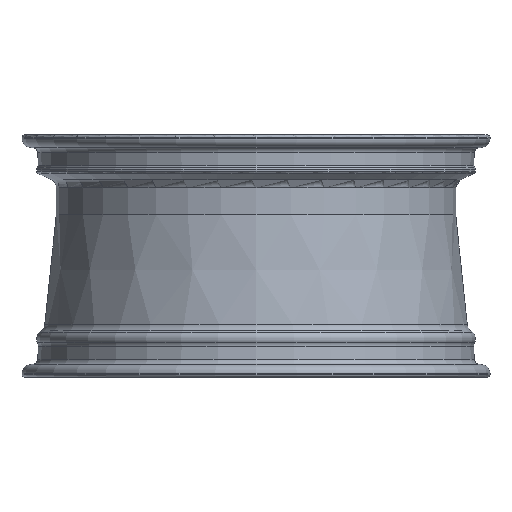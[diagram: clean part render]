
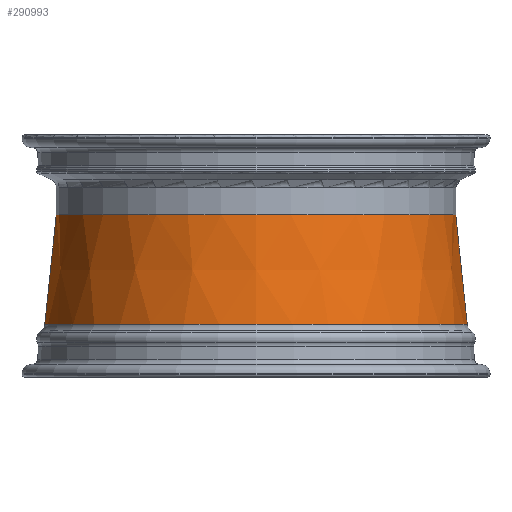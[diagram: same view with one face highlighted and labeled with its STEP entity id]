
A CAD part, front view. The second image highlights one B-rep face of the part: STEP entity #290993.
In plain terms, the highlighted conical face has half-angle 6 degrees and reference radius 229.187 mm.
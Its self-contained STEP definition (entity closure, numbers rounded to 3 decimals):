
#7204 = VECTOR ( 'NONE', #234315, 1000. ) ;
#13282 = CARTESIAN_POINT ( 'NONE',  ( 222.767, 0., 45.9 ) ) ;
#24346 = ORIENTED_EDGE ( 'NONE', *, *, #309375, .F. ) ;
#25072 = FACE_OUTER_BOUND ( 'NONE', #38658, .T. ) ;
#30382 = ORIENTED_EDGE ( 'NONE', *, *, #332930, .F. ) ;
#38658 = EDGE_LOOP ( 'NONE', ( #24346, #30382, #128768, #190438 ) ) ;
#46980 = CIRCLE ( 'NONE', #297182, 235.606 ) ;
#48793 = LINE ( 'NONE', #307680, #125735 ) ;
#55210 = VERTEX_POINT ( 'NONE', #71683 ) ;
#71683 = CARTESIAN_POINT ( 'NONE',  ( 235.606, 0., -76.25 ) ) ;
#74328 = DIRECTION ( 'NONE',  ( -0.105, 0., -0.995 ) ) ;
#78943 = CIRCLE ( 'NONE', #133155, 222.767 ) ;
#80850 = DIRECTION ( 'NONE',  ( 1., 0., 0. ) ) ;
#89923 = VERTEX_POINT ( 'NONE', #203913 ) ;
#103211 = DIRECTION ( 'NONE',  ( 0., 0., 1. ) ) ;
#123915 = DIRECTION ( 'NONE',  ( -1., 0., 0. ) ) ;
#125735 = VECTOR ( 'NONE', #74328, 1000. ) ;
#128768 = ORIENTED_EDGE ( 'NONE', *, *, #297145, .T. ) ;
#130441 = CARTESIAN_POINT ( 'NONE',  ( 0., 0., -76.25 ) ) ;
#133155 = AXIS2_PLACEMENT_3D ( 'NONE', #162539, #293674, #80850 ) ;
#134294 = VERTEX_POINT ( 'NONE', #13282 ) ;
#144916 = EDGE_CURVE ( 'NONE', #89923, #55210, #46980, .T. ) ;
#152866 = CARTESIAN_POINT ( 'NONE',  ( 0., 0., -15.175 ) ) ;
#162539 = CARTESIAN_POINT ( 'NONE',  ( 0., 0., 45.9 ) ) ;
#190438 = ORIENTED_EDGE ( 'NONE', *, *, #144916, .T. ) ;
#203913 = CARTESIAN_POINT ( 'NONE',  ( -235.606, 0., -76.25 ) ) ;
#213770 = CARTESIAN_POINT ( 'NONE',  ( 229.187, 0., -15.175 ) ) ;
#220541 = VERTEX_POINT ( 'NONE', #265204 ) ;
#224183 = CONICAL_SURFACE ( 'NONE', #251412, 229.187, 0.105 ) ;
#230962 = LINE ( 'NONE', #213770, #7204 ) ;
#234315 = DIRECTION ( 'NONE',  ( 0.105, 0., -0.995 ) ) ;
#234329 = DIRECTION ( 'NONE',  ( 1., 0., 0. ) ) ;
#251412 = AXIS2_PLACEMENT_3D ( 'NONE', #152866, #256732, #123915 ) ;
#256732 = DIRECTION ( 'NONE',  ( 0., 0., -1. ) ) ;
#265204 = CARTESIAN_POINT ( 'NONE',  ( -222.767, 0., 45.9 ) ) ;
#290993 = ADVANCED_FACE ( 'NONE', ( #25072 ), #224183, .T. ) ;
#293674 = DIRECTION ( 'NONE',  ( 0., 0., 1. ) ) ;
#297145 = EDGE_CURVE ( 'NONE', #220541, #89923, #48793, .T. ) ;
#297182 = AXIS2_PLACEMENT_3D ( 'NONE', #130441, #103211, #234329 ) ;
#307680 = CARTESIAN_POINT ( 'NONE',  ( -229.187, 0., -15.175 ) ) ;
#309375 = EDGE_CURVE ( 'NONE', #134294, #55210, #230962, .T. ) ;
#332930 = EDGE_CURVE ( 'NONE', #220541, #134294, #78943, .T. ) ;
